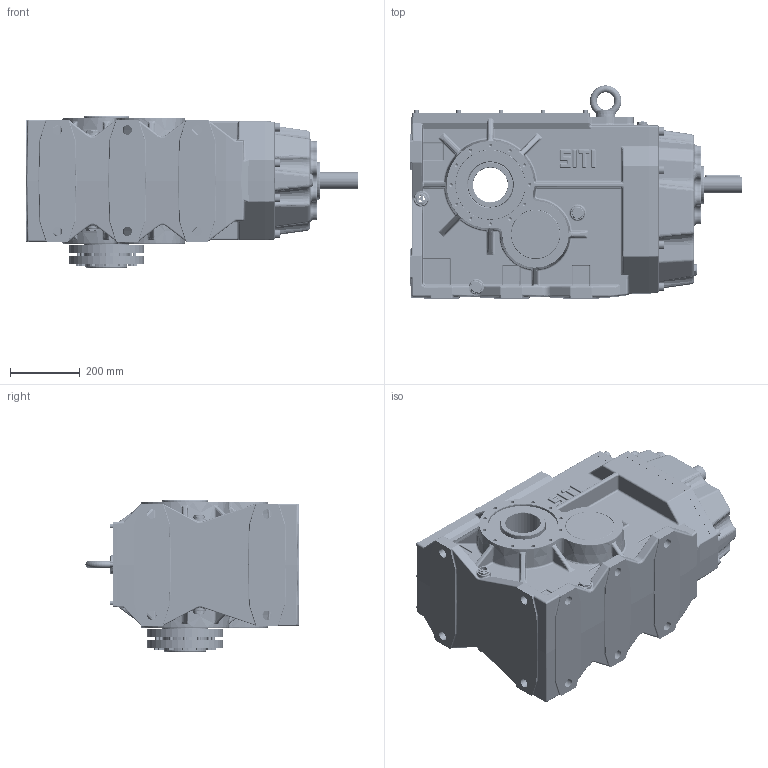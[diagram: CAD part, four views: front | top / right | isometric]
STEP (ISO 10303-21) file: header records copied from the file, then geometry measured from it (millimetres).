
FILE_DESCRIPTION((''),'2;1');
FILE_NAME('O:\Figurini\Figurini BH\3D\180\BH 180 CC-A.stp','2013-05-21T17:22:03',('d.iannaccio'),(''),'Autodesk Inventor 2012','Autodesk Inventor 2012','');
FILE_SCHEMA(('AUTOMOTIVE_DESIGN { 1 0 10303 214 1 1 1 1 }'));
Length unit declared in the file: millimetre
Products named in the file (1): BH_180 CC-A
Bounding box: 950.5 x 609.87 x 435 mm (x, y, z)
Volume: 37202240.7 mm3; surface area: 4363783.6 mm2
Topology: 3 solids, 51 shells, 3891 faces, 9148 edges, 5419 vertices
Faces by surface type: cylinder 1217, plane 1086, bspline 695, torus 386, cone 313, sphere 194
Full cylindrical faces by diameter (mm): 2.4 x1, 6.647 x12, 8 x24, 8.4 x1, 9 x12, 10 x31, 10.106 x26, 10.5 x3, 11 x24, 13 x12, 13.835 x8, 14.63 x12, 16 x8, 17 x9, 18 x1, 19.6 x1, 20 x2, 20.752 x2, 24 x8, 24.117 x8, 26.5 x2, 27 x10, 31 x7, 31.9 x1, 40 x1, 48 x1, 62 x1, 64.4 x1, 65 x2, 76.5 x2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
Entity records: 131509 total; most frequent: CARTESIAN_POINT 45930, DIRECTION 16762, ORIENTED_EDGE 16398, EDGE_CURVE 8199, AXIS2_PLACEMENT_3D 6941, VERTEX_POINT 5150, EDGE_LOOP 4754, STYLED_ITEM 3892
